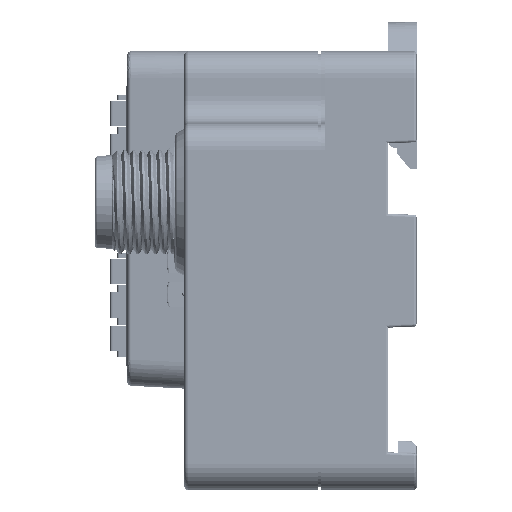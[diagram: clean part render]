
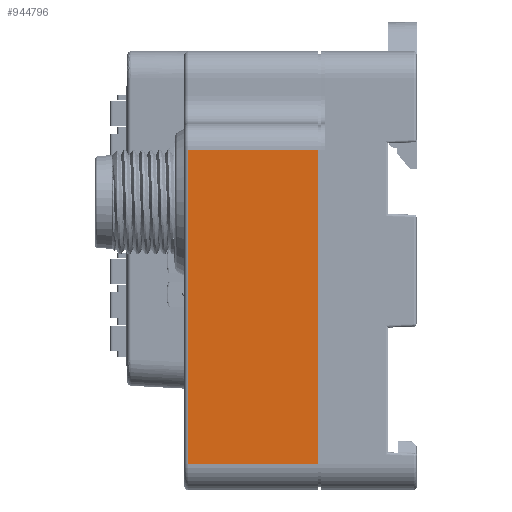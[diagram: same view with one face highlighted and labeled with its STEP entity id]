
A CAD part, left-side view. The second image highlights one B-rep face of the part: STEP entity #944796.
In plain terms, the highlighted planar face has unit normal (-1, 0, 0).
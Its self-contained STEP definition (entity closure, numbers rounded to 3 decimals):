
#925293=DIRECTION('',(0.,0.,1.));
#925294=VECTOR('',#925293,35.752);
#925295=CARTESIAN_POINT('',(-85.5,-7.7,-22.));
#925296=LINE('',#925295,#925294);
#925297=DIRECTION('',(0.,-1.,0.));
#925298=VECTOR('',#925297,14.8);
#925299=CARTESIAN_POINT('',(-85.5,7.1,-22.));
#925300=LINE('',#925299,#925298);
#925301=DIRECTION('',(0.,0.,1.));
#925302=VECTOR('',#925301,35.752);
#925303=CARTESIAN_POINT('',(-85.5,7.1,-22.));
#925304=LINE('',#925303,#925302);
#925305=DIRECTION('',(0.,1.,0.));
#925306=VECTOR('',#925305,14.8);
#925307=CARTESIAN_POINT('',(-85.5,-7.7,13.752));
#925308=LINE('',#925307,#925306);
#933376=CARTESIAN_POINT('',(-85.5,7.1,-22.));
#933377=CARTESIAN_POINT('',(-85.5,7.1,13.752));
#933378=VERTEX_POINT('',#933376);
#933379=VERTEX_POINT('',#933377);
#933428=CARTESIAN_POINT('',(-85.5,-7.7,-22.));
#933429=CARTESIAN_POINT('',(-85.5,-7.7,13.752));
#933430=VERTEX_POINT('',#933428);
#933431=VERTEX_POINT('',#933429);
#944783=CARTESIAN_POINT('',(-85.5,14.6,-25.));
#944784=DIRECTION('',(-1.,0.,0.));
#944785=DIRECTION('',(0.,0.,1.));
#944786=AXIS2_PLACEMENT_3D('',#944783,#944784,#944785);
#944787=PLANE('',#944786);
#944788=ORIENTED_EDGE('',*,*,#937577,.F.);
#944790=ORIENTED_EDGE('',*,*,#944789,.F.);
#944792=ORIENTED_EDGE('',*,*,#944791,.T.);
#944793=ORIENTED_EDGE('',*,*,#944775,.F.);
#944794=EDGE_LOOP('',(#944788,#944790,#944792,#944793));
#944795=FACE_OUTER_BOUND('',#944794,.F.);
#937577=EDGE_CURVE('',#933430,#933431,#925296,.T.);
#944775=EDGE_CURVE('',#933431,#933379,#925308,.T.);
#944789=EDGE_CURVE('',#933378,#933430,#925300,.T.);
#944791=EDGE_CURVE('',#933378,#933379,#925304,.T.);
#944796=ADVANCED_FACE('',(#944795),#944787,.T.);
